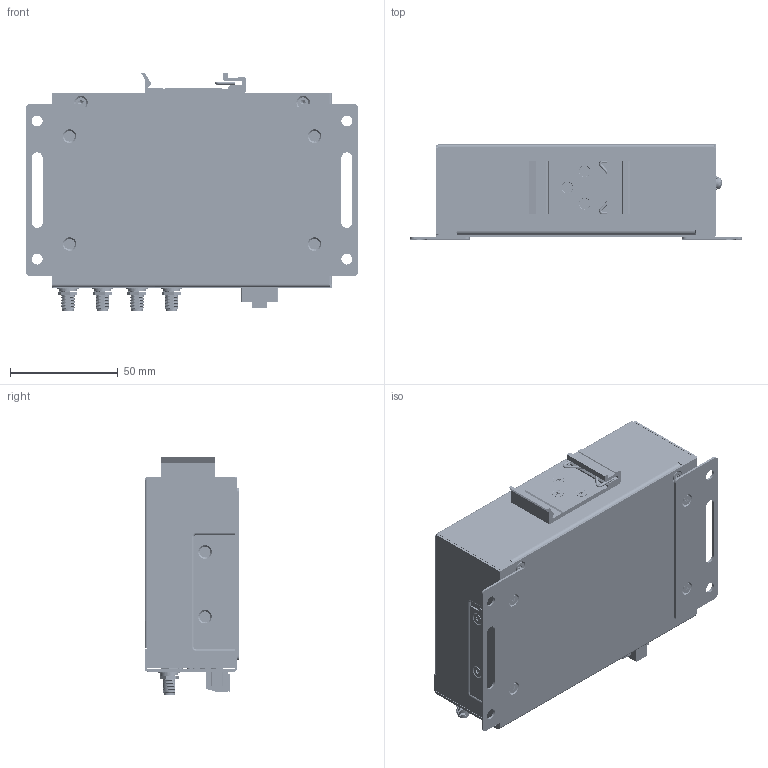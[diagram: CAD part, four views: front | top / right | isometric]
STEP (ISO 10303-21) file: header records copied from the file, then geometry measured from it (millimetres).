
FILE_DESCRIPTION (( 'STEP AP214' ), '1' );
FILE_NAME ('ICR-4161.STEP', '2024-11-05T08:44:03', ( '' ), ( '' ), 'SwSTEP 2.0', 'SolidWorks 2024', '' );
FILE_SCHEMA (( 'AUTOMOTIVE_DESIGN' ));
Length unit declared in the file: millimetre
Products named in the file (45): DIN_25_AL; Chassis_package-ICR-4(1,2)xx; Pluggable_Term_Blk_2P; Dip_Switch_2_positon; ThermalTape; Radial_THT_Capacitor; SCR_ZC_M3_L10_PH_PW; PCI_Female_Connector_52P; ChassisTop; Micro_SD_card_holder_part_2; SCR_ZC_M3_L6_PH_PW; Bottom_Base_for_ICR-4(1,2)xx; Label_41W0C4; Thermal_pad_46x30; POST_D6xL4; ChassisBottom; Micro_SD_card_holder_part_1; PCB_ICR-4(1,2)xx; SIM_holder; ChassisSimCover; chassisWallMount; Label_SIM_SD_IO_configuration_SIM; B-ICR41(2)xx-4_B-ICR41xxLS-4; SCR_ZC_M3_L6_PH_PW_2; Case_for_ICR-4(1,2)xx; USB_3_0_type_A; AlluminiumCooler; POST_D4,5xL5; BAT_CR1225; CON_WR2; Battery_SMT_holder_Keystone-PN3000; ANT_PG_L150_SMA_I; Micro_SD_card_holder; PCI_Female_Connector_67P; SCR_BK_M3_L5_PH_FL_TW_GLUE; RM520N-GL; CDS_M_H5_W7,3_CHM3; SCR_BK_M3_L4_TX8_FL_SCR; CoolingPadCellular; RJ45_2x_Connector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
Assembly tree (66 placements, depth 5):
  ICR-4161
    Chassis_package-ICR-4(1,2)xx
      Case_for_ICR-4(1,2)xx
        Bottom_Base_for_ICR-4(1,2)xx
          ChassisBottom
          CDS_M_H5_W7,3_CHM3  x4
        ChassisTop
      ChassisSimCover
      ThermalTape
      chassisWallMount  x2
      AlluminiumCooler
    B-ICR41(2)xx-4_B-ICR41xxLS-4
      PCB_ICR-4(1,2)xx
      PCI_Female_Connector_52P
      POST_D4,5xL5
      Battery_SMT_holder_Keystone-PN3000
      Lightpipe_4P  x2
      RJ45_2x_Connector
      USB_3_0_type_A
      POST_D6xL4
      PCI_Female_Connector_67P
      SIM_holder  x2
      Tact_Switch_right_angle
      Radial_THT_Capacitor
      Pluggable_Term_Blk_2P
      Micro_SD_card_holder
        Micro_SD_card_holder_part_1
        Micro_SD_card_holder_part_2
      Dip_Switch_2_positon
      Pin_header_6x2P
    CON_WR2
    BAT_CR1225
    DIN_25_AL
    Label_SIM_SD_IO_configuration_SIM
    Label_41W0C4
    Thermal_pad_46x30
    CoolingPadCellular  x2
    RM520N-GL
    ANT_PG_L150_SMA_I  x4
    SCR_BK_M3_L4_TX8_FL_SCR  x4
    SCR_BK_M3_L5_PH_FL_TW_GLUE  x7
    SCR_BK_M3_L5_PH_FL_TW  x2
    SCR_ZC_M3_L6_PH_PW_2
    SCR_ZC_M3_L10_PH_PW
    SCR_ZC_M3_L6_PH_PW  x3
Bounding box: 153.9 x 44 x 110.25 mm (x, y, z)
Volume: 100833 mm3; surface area: 194466.3 mm2
Topology: 82 solids, 123 shells, 13901 faces, 38246 edges, 25048 vertices
Faces by surface type: plane 7902, bspline 2914, cylinder 2640, cone 292, torus 119, sphere 34
Entity records: 464159 total; most frequent: CARTESIAN_POINT 134157, ORIENTED_EDGE 64912, DIRECTION 48084, EDGE_CURVE 32564, VERTEX_POINT 21306, VECTOR 20700, LINE 20700, AXIS2_PLACEMENT_3D 13692
